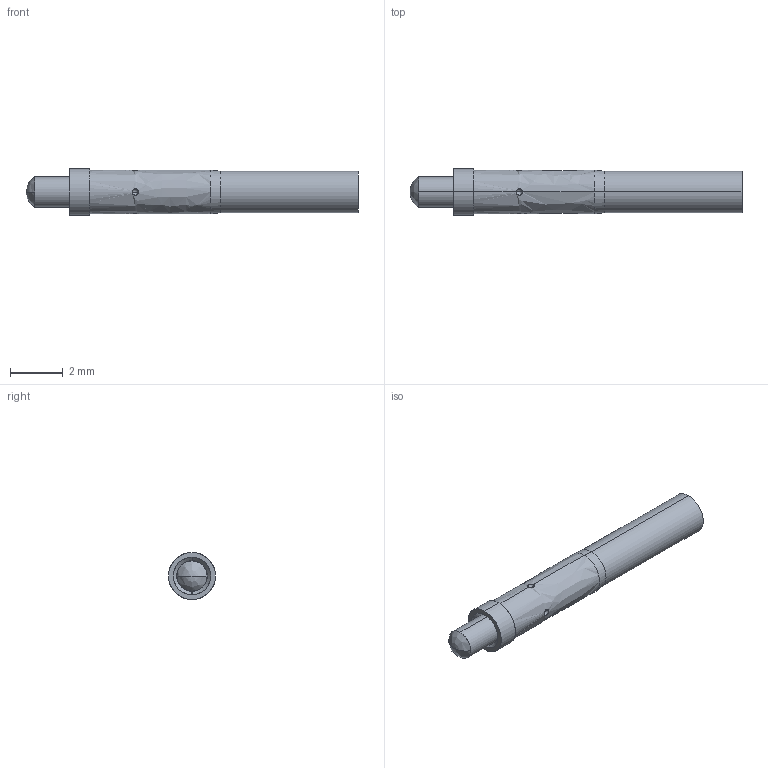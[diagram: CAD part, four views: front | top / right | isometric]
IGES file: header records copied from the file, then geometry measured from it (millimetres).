
Start section: SolidWorks IGES file using analytic representation for surfaces
Global section: file name: F:\OneDrive\Desktop\Coda\28.6\Front Fitment Completed\PD4 Series RTP\PD4JS.IGS; native system: SolidWorks 2021; preprocessor: SolidWorks 2021; author: Georg; date: 210713.170022; units: millimetre
Bounding box: 12.57 x 1.78 x 1.78 mm (x, y, z)
Surface area: 131.4 mm2 (no closed solid volume)
Topology: 0 solids, 0 shells, 66 faces, 609 edges, 584 vertices
Faces by surface type: bspline 34, revolution 32
